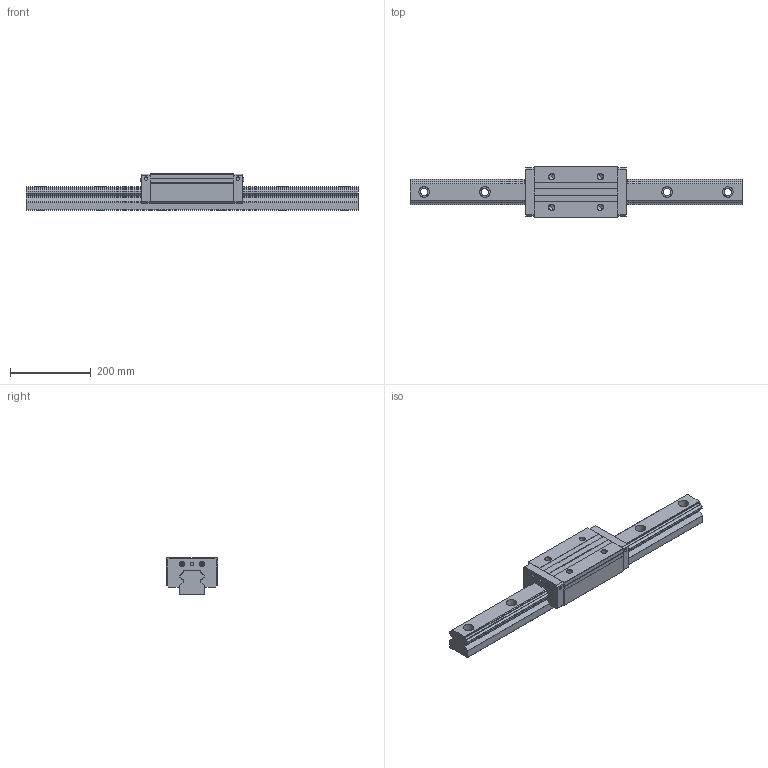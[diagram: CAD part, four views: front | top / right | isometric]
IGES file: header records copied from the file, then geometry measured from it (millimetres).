
Start section: START RECORD GO HERE.
Global section: file name: SBG65_SLL.igs; native system: IBM CATIA IGES - CATIA Version 5 Release 16 ; preprocessor: CATIA Version 5 Release 16 ; author: mycom; organization: RD03; date: 20070228.152914; units: millimetre
Bounding box: 820 x 126 x 90 mm (x, y, z)
Surface area: 398577.4 mm2 (no closed solid volume)
Topology: 0 solids, 0 shells, 289 faces, 1522 edges, 1514 vertices
Faces by surface type: revolution 168, plane 121
